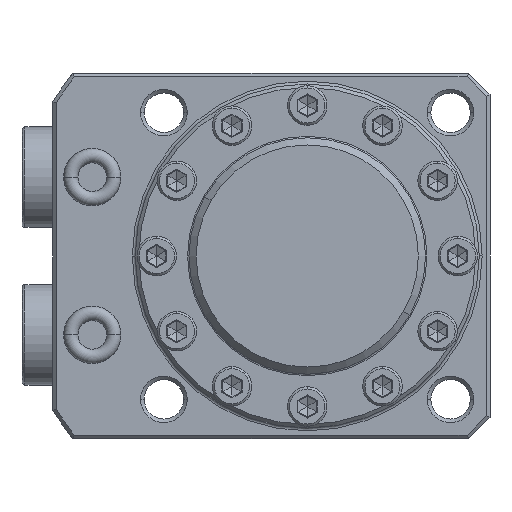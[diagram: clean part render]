
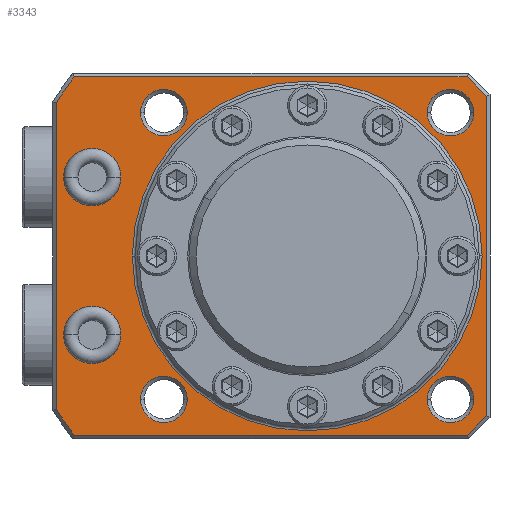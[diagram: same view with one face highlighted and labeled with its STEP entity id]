
A CAD part, front view. The second image highlights one B-rep face of the part: STEP entity #3343.
In plain terms, the highlighted planar face has unit normal (0, -1, 0).
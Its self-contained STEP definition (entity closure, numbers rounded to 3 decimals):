
#402=CARTESIAN_POINT('',(-30.,54.6,-11.));
#403=DIRECTION('',(0.,1.,0.));
#404=DIRECTION('',(-1.,0.,0.));
#405=AXIS2_PLACEMENT_3D('',#402,#403,#404);
#407=CARTESIAN_POINT('',(-30.,54.6,-11.));
#408=DIRECTION('',(0.,1.,0.));
#409=DIRECTION('',(1.,0.,0.));
#410=AXIS2_PLACEMENT_3D('',#407,#408,#409);
#412=CARTESIAN_POINT('',(-30.,54.6,11.));
#413=DIRECTION('',(0.,1.,0.));
#414=DIRECTION('',(-1.,0.,0.));
#415=AXIS2_PLACEMENT_3D('',#412,#413,#414);
#417=CARTESIAN_POINT('',(-30.,54.6,11.));
#418=DIRECTION('',(0.,1.,0.));
#419=DIRECTION('',(1.,0.,0.));
#420=AXIS2_PLACEMENT_3D('',#417,#418,#419);
#422=DIRECTION('',(0.,0.,-1.));
#423=VECTOR('',#422,42.708);
#424=CARTESIAN_POINT('',(-35.,54.6,21.354));
#425=LINE('',#424,#423);
#426=CARTESIAN_POINT('',(0.,54.6,0.));
#427=DIRECTION('',(0.,-1.,0.));
#428=DIRECTION('',(-0.793,0.,0.61));
#429=AXIS2_PLACEMENT_3D('',#426,#427,#428);
#431=DIRECTION('',(-1.,0.,0.));
#432=VECTOR('',#431,54.789);
#433=CARTESIAN_POINT('',(22.293,54.6,25.));
#434=LINE('',#433,#432);
#435=DIRECTION('',(-0.707,0.,0.707));
#436=VECTOR('',#435,3.828);
#437=CARTESIAN_POINT('',(25.,54.6,22.293));
#438=LINE('',#437,#436);
#439=DIRECTION('',(0.,0.,1.));
#440=VECTOR('',#439,44.586);
#441=CARTESIAN_POINT('',(25.,54.6,-22.293));
#442=LINE('',#441,#440);
#443=DIRECTION('',(0.707,0.,0.707));
#444=VECTOR('',#443,3.828);
#445=CARTESIAN_POINT('',(22.293,54.6,-25.));
#446=LINE('',#445,#444);
#447=DIRECTION('',(1.,0.,0.));
#448=VECTOR('',#447,54.789);
#449=CARTESIAN_POINT('',(-32.496,54.6,-25.));
#450=LINE('',#449,#448);
#451=CARTESIAN_POINT('',(0.,54.6,0.));
#452=DIRECTION('',(0.,-1.,0.));
#453=DIRECTION('',(-0.854,0.,-0.521));
#454=AXIS2_PLACEMENT_3D('',#451,#452,#453);
#456=CARTESIAN_POINT('',(-20.,54.6,20.));
#457=DIRECTION('',(0.,1.,0.));
#458=DIRECTION('',(1.,0.,0.));
#459=AXIS2_PLACEMENT_3D('',#456,#457,#458);
#461=CARTESIAN_POINT('',(-20.,54.6,20.));
#462=DIRECTION('',(0.,1.,0.));
#463=DIRECTION('',(-1.,0.,0.));
#464=AXIS2_PLACEMENT_3D('',#461,#462,#463);
#466=CARTESIAN_POINT('',(-20.,54.6,-20.));
#467=DIRECTION('',(0.,1.,0.));
#468=DIRECTION('',(1.,0.,0.));
#469=AXIS2_PLACEMENT_3D('',#466,#467,#468);
#471=CARTESIAN_POINT('',(-20.,54.6,-20.));
#472=DIRECTION('',(0.,1.,0.));
#473=DIRECTION('',(-1.,0.,0.));
#474=AXIS2_PLACEMENT_3D('',#471,#472,#473);
#476=CARTESIAN_POINT('',(20.,54.6,-20.));
#477=DIRECTION('',(0.,1.,0.));
#478=DIRECTION('',(1.,0.,0.));
#479=AXIS2_PLACEMENT_3D('',#476,#477,#478);
#481=CARTESIAN_POINT('',(20.,54.6,-20.));
#482=DIRECTION('',(0.,1.,0.));
#483=DIRECTION('',(-1.,0.,0.));
#484=AXIS2_PLACEMENT_3D('',#481,#482,#483);
#486=CARTESIAN_POINT('',(20.,54.6,20.));
#487=DIRECTION('',(0.,1.,0.));
#488=DIRECTION('',(-1.,0.,0.));
#489=AXIS2_PLACEMENT_3D('',#486,#487,#488);
#491=CARTESIAN_POINT('',(20.,54.6,20.));
#492=DIRECTION('',(0.,1.,0.));
#493=DIRECTION('',(1.,0.,0.));
#494=AXIS2_PLACEMENT_3D('',#491,#492,#493);
#496=CARTESIAN_POINT('',(0.,54.6,0.));
#497=DIRECTION('',(0.,1.,0.));
#498=DIRECTION('',(1.,0.,0.));
#499=AXIS2_PLACEMENT_3D('',#496,#497,#498);
#501=CARTESIAN_POINT('',(0.,54.6,0.));
#502=DIRECTION('',(0.,1.,0.));
#503=DIRECTION('',(-1.,0.,0.));
#504=AXIS2_PLACEMENT_3D('',#501,#502,#503);
#2383=CARTESIAN_POINT('',(-34.,54.6,-11.));
#2384=CARTESIAN_POINT('',(-26.,54.6,-11.));
#2385=VERTEX_POINT('',#2383);
#2386=VERTEX_POINT('',#2384);
#2391=CARTESIAN_POINT('',(-34.,54.6,11.));
#2392=CARTESIAN_POINT('',(-26.,54.6,11.));
#2393=VERTEX_POINT('',#2391);
#2394=VERTEX_POINT('',#2392);
#2419=CARTESIAN_POINT('',(-35.,54.6,21.354));
#2420=CARTESIAN_POINT('',(-35.,54.6,-21.354));
#2421=VERTEX_POINT('',#2419);
#2422=VERTEX_POINT('',#2420);
#2435=CARTESIAN_POINT('',(22.293,54.6,25.));
#2436=CARTESIAN_POINT('',(-32.496,54.6,25.));
#2437=VERTEX_POINT('',#2435);
#2438=VERTEX_POINT('',#2436);
#2447=CARTESIAN_POINT('',(25.,54.6,-22.293));
#2448=CARTESIAN_POINT('',(25.,54.6,22.293));
#2449=VERTEX_POINT('',#2447);
#2450=VERTEX_POINT('',#2448);
#2455=CARTESIAN_POINT('',(-32.496,54.6,-25.));
#2456=CARTESIAN_POINT('',(22.293,54.6,-25.));
#2457=VERTEX_POINT('',#2455);
#2458=VERTEX_POINT('',#2456);
#2523=CARTESIAN_POINT('',(-16.75,54.6,20.));
#2524=CARTESIAN_POINT('',(-23.25,54.6,20.));
#2525=VERTEX_POINT('',#2523);
#2526=VERTEX_POINT('',#2524);
#2531=CARTESIAN_POINT('',(-16.75,54.6,-20.));
#2532=CARTESIAN_POINT('',(-23.25,54.6,-20.));
#2533=VERTEX_POINT('',#2531);
#2534=VERTEX_POINT('',#2532);
#2539=CARTESIAN_POINT('',(23.25,54.6,-20.));
#2540=CARTESIAN_POINT('',(16.75,54.6,-20.));
#2541=VERTEX_POINT('',#2539);
#2542=VERTEX_POINT('',#2540);
#2547=CARTESIAN_POINT('',(16.75,54.6,20.));
#2548=CARTESIAN_POINT('',(23.25,54.6,20.));
#2549=VERTEX_POINT('',#2547);
#2550=VERTEX_POINT('',#2548);
#2567=CARTESIAN_POINT('',(24.4,54.6,0.));
#2568=CARTESIAN_POINT('',(-24.4,54.6,0.));
#2569=VERTEX_POINT('',#2567);
#2570=VERTEX_POINT('',#2568);
#3279=CARTESIAN_POINT('',(0.,54.6,0.));
#3280=DIRECTION('',(0.,-1.,0.));
#3281=DIRECTION('',(-1.,0.,0.));
#3282=AXIS2_PLACEMENT_3D('',#3279,#3280,#3281);
#3283=PLANE('',#3282);
#3285=ORIENTED_EDGE('',*,*,#3284,.F.);
#3287=ORIENTED_EDGE('',*,*,#3286,.F.);
#3289=ORIENTED_EDGE('',*,*,#3288,.F.);
#3291=ORIENTED_EDGE('',*,*,#3290,.F.);
#3293=ORIENTED_EDGE('',*,*,#3292,.F.);
#3295=ORIENTED_EDGE('',*,*,#3294,.F.);
#3297=ORIENTED_EDGE('',*,*,#3296,.F.);
#3299=ORIENTED_EDGE('',*,*,#3298,.F.);
#3300=EDGE_LOOP('',(#3285,#3287,#3289,#3291,#3293,#3295,#3297,#3299));
#3301=FACE_OUTER_BOUND('',#3300,.F.);
#3303=ORIENTED_EDGE('',*,*,#3302,.F.);
#3305=ORIENTED_EDGE('',*,*,#3304,.F.);
#3306=EDGE_LOOP('',(#3303,#3305));
#3307=FACE_BOUND('',#3306,.F.);
#3309=ORIENTED_EDGE('',*,*,#3308,.F.);
#3311=ORIENTED_EDGE('',*,*,#3310,.F.);
#3312=EDGE_LOOP('',(#3309,#3311));
#3313=FACE_BOUND('',#3312,.F.);
#3315=ORIENTED_EDGE('',*,*,#3314,.F.);
#3317=ORIENTED_EDGE('',*,*,#3316,.F.);
#3318=EDGE_LOOP('',(#3315,#3317));
#3319=FACE_BOUND('',#3318,.F.);
#3321=ORIENTED_EDGE('',*,*,#3320,.F.);
#3323=ORIENTED_EDGE('',*,*,#3322,.F.);
#3324=EDGE_LOOP('',(#3321,#3323));
#3325=FACE_BOUND('',#3324,.F.);
#3326=ORIENTED_EDGE('',*,*,#3269,.F.);
#3328=ORIENTED_EDGE('',*,*,#3327,.F.);
#3329=EDGE_LOOP('',(#3326,#3328));
#3330=FACE_BOUND('',#3329,.F.);
#3332=ORIENTED_EDGE('',*,*,#3331,.F.);
#3334=ORIENTED_EDGE('',*,*,#3333,.F.);
#3335=EDGE_LOOP('',(#3332,#3334));
#3336=FACE_BOUND('',#3335,.F.);
#3338=ORIENTED_EDGE('',*,*,#3337,.F.);
#3340=ORIENTED_EDGE('',*,*,#3339,.F.);
#3341=EDGE_LOOP('',(#3338,#3340));
#3342=FACE_BOUND('',#3341,.F.);
#3343=ADVANCED_FACE('',(#3301,#3307,#3313,#3319,#3325,#3330,#3336,#3342),#3283,
.T.);
#406=CIRCLE('',#405,4.);
#411=CIRCLE('',#410,4.);
#416=CIRCLE('',#415,4.);
#421=CIRCLE('',#420,4.);
#430=CIRCLE('',#429,41.);
#455=CIRCLE('',#454,41.);
#460=CIRCLE('',#459,3.25);
#465=CIRCLE('',#464,3.25);
#470=CIRCLE('',#469,3.25);
#475=CIRCLE('',#474,3.25);
#480=CIRCLE('',#479,3.25);
#485=CIRCLE('',#484,3.25);
#490=CIRCLE('',#489,3.25);
#495=CIRCLE('',#494,3.25);
#500=CIRCLE('',#499,24.4);
#505=CIRCLE('',#504,24.4);
#3269=EDGE_CURVE('',#2541,#2542,#480,.T.);
#3284=EDGE_CURVE('',#2421,#2422,#425,.T.);
#3286=EDGE_CURVE('',#2438,#2421,#430,.T.);
#3288=EDGE_CURVE('',#2437,#2438,#434,.T.);
#3290=EDGE_CURVE('',#2450,#2437,#438,.T.);
#3292=EDGE_CURVE('',#2449,#2450,#442,.T.);
#3294=EDGE_CURVE('',#2458,#2449,#446,.T.);
#3296=EDGE_CURVE('',#2457,#2458,#450,.T.);
#3298=EDGE_CURVE('',#2422,#2457,#455,.T.);
#3302=EDGE_CURVE('',#2393,#2394,#416,.T.);
#3304=EDGE_CURVE('',#2394,#2393,#421,.T.);
#3308=EDGE_CURVE('',#2385,#2386,#406,.T.);
#3310=EDGE_CURVE('',#2386,#2385,#411,.T.);
#3314=EDGE_CURVE('',#2525,#2526,#460,.T.);
#3316=EDGE_CURVE('',#2526,#2525,#465,.T.);
#3320=EDGE_CURVE('',#2533,#2534,#470,.T.);
#3322=EDGE_CURVE('',#2534,#2533,#475,.T.);
#3327=EDGE_CURVE('',#2542,#2541,#485,.T.);
#3331=EDGE_CURVE('',#2549,#2550,#490,.T.);
#3333=EDGE_CURVE('',#2550,#2549,#495,.T.);
#3337=EDGE_CURVE('',#2569,#2570,#500,.T.);
#3339=EDGE_CURVE('',#2570,#2569,#505,.T.);
